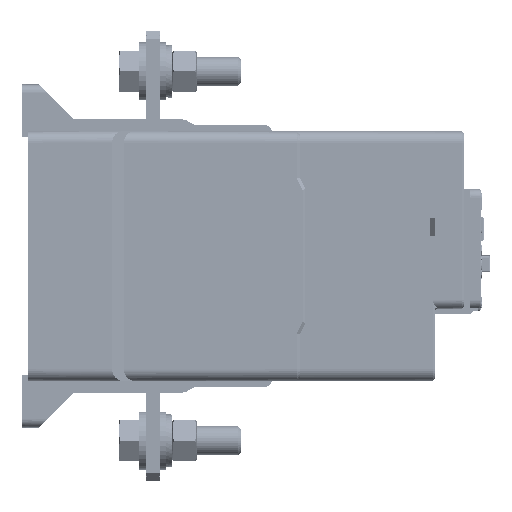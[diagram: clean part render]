
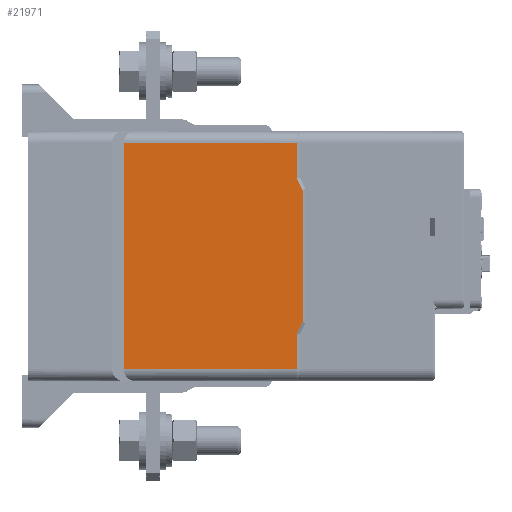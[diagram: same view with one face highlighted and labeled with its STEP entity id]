
A CAD part, front view. The second image highlights one B-rep face of the part: STEP entity #21971.
In plain terms, the highlighted planar face has unit normal (0, -1, 0).
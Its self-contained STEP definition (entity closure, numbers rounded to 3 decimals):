
#3009=DIRECTION('',(0.447,0.,-0.894));
#3010=VECTOR('',#3009,4.472);
#3011=CARTESIAN_POINT('',(48.75,-74.,26.764));
#3012=LINE('',#3011,#3010);
#3013=DIRECTION('',(0.,0.,1.));
#3014=VECTOR('',#3013,45.528);
#3015=CARTESIAN_POINT('',(50.75,-74.,-22.764));
#3016=LINE('',#3015,#3014);
#3017=DIRECTION('',(-0.447,0.,-0.894));
#3018=VECTOR('',#3017,4.472);
#3019=CARTESIAN_POINT('',(50.75,-74.,-22.764));
#3020=LINE('',#3019,#3018);
#3021=DIRECTION('',(1.,0.,0.));
#3022=VECTOR('',#3021,59.5);
#3023=CARTESIAN_POINT('',(-10.75,-74.,-39.));
#3024=LINE('',#3023,#3022);
#3025=DIRECTION('',(0.,0.,-1.));
#3026=VECTOR('',#3025,78.);
#3027=CARTESIAN_POINT('',(-10.75,-74.,39.));
#3028=LINE('',#3027,#3026);
#3029=DIRECTION('',(-1.,0.,0.));
#3030=VECTOR('',#3029,59.5);
#3031=CARTESIAN_POINT('',(48.75,-74.,39.));
#3032=LINE('',#3031,#3030);
#8411=DIRECTION('',(0.,0.,1.));
#8412=VECTOR('',#8411,12.236);
#8413=CARTESIAN_POINT('',(48.75,-74.,26.764));
#8414=LINE('',#8413,#8412);
#13683=DIRECTION('',(0.,0.,1.));
#13684=VECTOR('',#13683,12.236);
#13685=CARTESIAN_POINT('',(48.75,-74.,
-39.));
#13686=LINE('',#13685,#13684);
#17190=CARTESIAN_POINT('',(-10.75,-74.,39.));
#17191=CARTESIAN_POINT('',(-10.75,-74.,-39.));
#17192=VERTEX_POINT('',#17190);
#17193=VERTEX_POINT('',#17191);
#17244=CARTESIAN_POINT('',(48.75,-74.,-39.));
#17246=VERTEX_POINT('',#17244);
#17255=CARTESIAN_POINT('',(48.75,-74.,39.));
#17257=VERTEX_POINT('',#17255);
#17264=CARTESIAN_POINT('',(48.75,-74.,26.764));
#17265=CARTESIAN_POINT('',(50.75,-74.,22.764));
#17266=VERTEX_POINT('',#17264);
#17267=VERTEX_POINT('',#17265);
#17270=CARTESIAN_POINT('',(50.75,-74.,-22.764));
#17271=VERTEX_POINT('',#17270);
#17272=CARTESIAN_POINT('',(48.75,-74.,-26.764));
#17273=VERTEX_POINT('',#17272);
#21948=CARTESIAN_POINT('',(-34.75,-74.,43.));
#21949=DIRECTION('',(0.,-1.,0.));
#21950=DIRECTION('',(0.,0.,-1.));
#21951=AXIS2_PLACEMENT_3D('',#21948,#21949,#21950);
#21952=PLANE('',#21951);
#21954=ORIENTED_EDGE('',*,*,#21953,.T.);
#21956=ORIENTED_EDGE('',*,*,#21955,.F.);
#21958=ORIENTED_EDGE('',*,*,#21957,.T.);
#21960=ORIENTED_EDGE('',*,*,#21959,.F.);
#21962=ORIENTED_EDGE('',*,*,#21961,.F.);
#21964=ORIENTED_EDGE('',*,*,#21963,.F.);
#21966=ORIENTED_EDGE('',*,*,#21965,.F.);
#21968=ORIENTED_EDGE('',*,*,#21967,.F.);
#21969=EDGE_LOOP('',(#21954,#21956,#21958,#21960,#21962,#21964,#21966,#21968));
#21970=FACE_OUTER_BOUND('',#21969,.F.);
#21971=ADVANCED_FACE('',(#21970),#21952,.T.);
#21953=EDGE_CURVE('',#17266,#17267,#3012,.T.);
#21955=EDGE_CURVE('',#17271,#17267,#3016,.T.);
#21957=EDGE_CURVE('',#17271,#17273,#3020,.T.);
#21959=EDGE_CURVE('',#17246,#17273,#13686,.T.);
#21961=EDGE_CURVE('',#17193,#17246,#3024,.T.);
#21963=EDGE_CURVE('',#17192,#17193,#3028,.T.);
#21965=EDGE_CURVE('',#17257,#17192,#3032,.T.);
#21967=EDGE_CURVE('',#17266,#17257,#8414,.T.);
